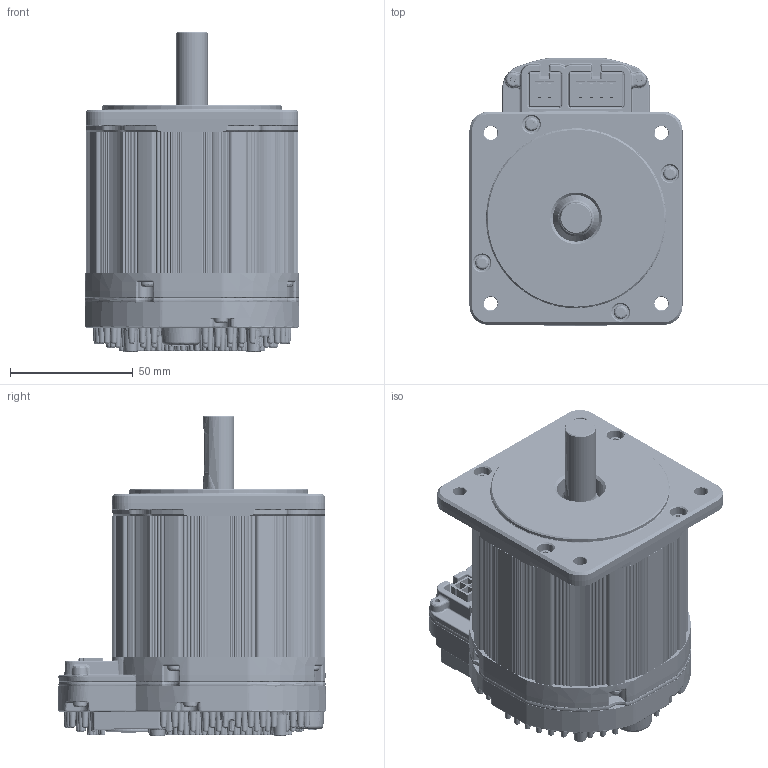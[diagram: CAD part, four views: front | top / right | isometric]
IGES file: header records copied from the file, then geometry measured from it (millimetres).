
Start section: SolidWorks IGES file using analytic representation for surfaces
Global section: file name: C:\Users\tim_ohearn\Desktop\solidworks2\CUSTY Downs\3421\CPM-_ _ _ _ - 3421_-LS.IGS; native system: SolidWorks 2013; preprocessor: SolidWorks 2013; author: tim_ohearn; date: 170315.152314; units: inch
Bounding box: 87.49 x 109.25 x 130.53 mm (x, y, z)
Surface area: 140136 mm2 (no closed solid volume)
Topology: 0 solids, 0 shells, 6766 faces, 74519 edges, 74179 vertices
Faces by surface type: bspline 3688, revolution 3078
